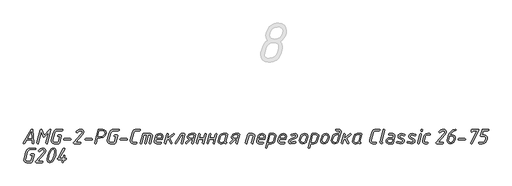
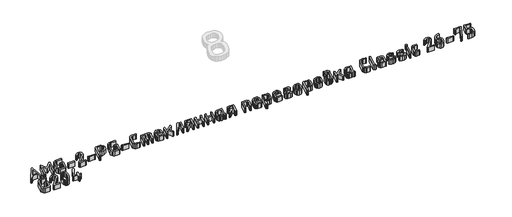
# One storey, part 11 of 22: 1 proxy.
"""IFC4 building model written with IfcOpenShell, lengths in millimetres."""

from ifc_helpers import new_model, si_unit, origin, origin_with_axes, place, context, project, spatial, polyline, outline, extrude, element, save

model = new_model("IFC4")

# Units and contexts
model_context = context("Model", 3, world=origin())
ifc_project = project(units=[si_unit("LENGTHUNIT", "METRE", prefix="MILLI")], contexts=[model_context])

# Site, building, storey
site = spatial("IfcSite", under=ifc_project)
building = spatial("IfcBuilding", under=site)
storey = spatial("IfcBuildingStorey", under=building, Name="Уровень 1", Elevation=0.0)

# Proxy
placement = place(None, origin())
element("IfcBuildingElementProxy", 1, Name="30", ObjectType="30", at=placement, inside=storey, context=model_context, shape_type="SweptSolid", body=[
    extrude(outline(polyline([(-27254.4219264, -35495.2113625), (-27310.5539274, -35495.2113625), (-27331.3287604, -35529.8494015), (-27337.7210168, -35533.5649005), (-27343.0345798, -35531.3276108), (-27345.1919664, -35526.0140477), (-27344.0733215, -35522.0188875), (-27261.4534084, -35386.2633437), (-27254.9812489, -35382.7076511), (-27249.6277342, -35384.4455458), (-27247.4703477, -35389.6592298), (-27237.0429795, -35526.2537573), (-27238.9406806, -35531.7371147), (-27244.6337839, -35533.5649005), (-27249.9573349, -35531.7970421), (-27252.0248303, -35526.493467), (-27254.4219264, -35495.2113625)]), holes=[polyline([(-27255.5405713, -35479.8699473), (-27260.6543764, -35413.3904815), (-27301.3251073, -35479.8699473), (-27255.5405713, -35479.8699473)])]), origin_with_axes(), (0.0, 0.0, 1.0), 50.0),
    extrude(outline(polyline([(-27159.3371135, -35413.3505299), (-27189.9000891, -35527.9716762), (-27192.4370158, -35532.1665945), (-27197.0913775, -35533.5649005), (-27202.3649889, -35531.3276108), (-27204.6821818, -35526.2537573), (-27204.362569, -35523.976516), (-27168.0865143, -35388.3008754), (-27165.5595755, -35384.1059572), (-27160.9351776, -35382.7076511), (-27153.9036956, -35387.2621337), (-27129.8128796, -35444.5527311), (-27073.0816046, -35385.1047472), (-27067.7680415, -35382.7076511), (-27062.1348656, -35384.5654006), (-27060.2571403, -35390.1386491), (-27060.49685, -35392.2960356), (-27096.732953, -35527.9716762), (-27099.3198193, -35532.1665945), (-27103.8842898, -35533.5649005), (-27109.1778771, -35531.3276108), (-27111.5150458, -35526.2537573), (-27111.1554814, -35523.976516), (-27082.5101827, -35416.6665129), (-27127.0961706, -35463.1701777), (-27132.4097337, -35465.4074674), (-27139.2414576, -35460.8929364), (-27159.3371135, -35413.3505299)])), origin_with_axes(), (0.0, 0.0, 1.0), 50.0),
    extrude(outline(polyline([(-26942.6795754, -35398.0490663), (-26991.3406268, -35398.0490663), (-27004.0052846, -35400.8356905), (-27014.512556, -35409.1955633), (-27020.5452479, -35420.5817699), (-27040.7607585, -35495.6907818), (-27041.5597906, -35501.2840061), (-27036.3860581, -35513.5491479), (-27023.5016664, -35518.2234853), (-26984.6287576, -35518.2234853), (-26968.4883104, -35459.4147271), (-26982.2316615, -35459.4147271), (-26987.8648374, -35457.4970502), (-26989.7425627, -35451.7440195), (-26987.8648374, -35445.9909888), (-26982.2316615, -35444.0733119), (-26956.782491, -35444.0733119), (-26952.3478631, -35445.4316663), (-26950.8696539, -35449.5067298), (-26950.9895087, -35451.5442615), (-26971.1251161, -35526.0939509), (-26974.6108934, -35531.6971631), (-26980.9931618, -35533.5649005), (-27027.5767298, -35533.5649005), (-27041.7995002, -35529.4199218), (-27052.8261424, -35516.9849857), (-27057.0210606, -35502.1229897), (-27056.2220285, -35495.8505882), (-27036.1263727, -35420.4219634), (-27026.1784238, -35399.6471304), (-27009.5186057, -35386.9425209), (-26987.2256117, -35382.7076511), (-26942.6795754, -35382.7076511), (-26937.0763632, -35384.625328), (-26935.2086258, -35390.3783587), (-26937.0763632, -35396.1313894), (-26942.6795754, -35398.0490663)])), origin_with_axes(), (0.0, 0.0, 1.0), 50.0),
    extrude(outline(polyline([(-26858.9809691, -35495.2113625), (-26921.0657587, -35495.2113625), (-26926.6689709, -35493.2936856), (-26928.5367083, -35487.5406549), (-26926.6689709, -35481.7876242), (-26921.0657587, -35479.8699473), (-26858.9809691, -35479.8699473), (-26853.3777569, -35481.7876242), (-26851.5100195, -35487.5406549), (-26853.3777569, -35493.2936856), (-26858.9809691, -35495.2113625)])), origin_with_axes(), (0.0, 0.0, 1.0), 50.0),
    extrude(outline(polyline([(-26784.9106988, -35417.8251093), (-26790.4639715, -35420.5418183), (-26795.7575588, -35418.2645769), (-26797.9748727, -35413.0309171), (-26796.137099, -35408.1568216), (-26776.8404752, -35389.5793266), (-26764.8749704, -35384.42557), (-26751.2714499, -35382.7076511), (-26736.3295507, -35386.3532348), (-26725.4627149, -35397.2899858), (-26721.2677967, -35412.4715946), (-26724.6936466, -35427.7430945), (-26734.9711962, -35442.7149574), (-26803.5281454, -35518.2234853), (-26758.5426415, -35518.2234853), (-26752.9094656, -35520.1411622), (-26751.0317403, -35525.8941929), (-26752.9094656, -35531.6472236), (-26758.5426415, -35533.5649005), (-26820.5874795, -35533.5649005), (-26826.1906917, -35531.6871752), (-26828.0584291, -35526.0539993), (-26826.1407522, -35520.9002427), (-26745.7980804, -35432.4873473), (-26738.906429, -35422.5693621), (-26736.6092119, -35413.1108203), (-26741.2935373, -35401.8145048), (-26755.3465133, -35398.0490663), (-26764.8050551, -35400.6359325), (-26775.9215884, -35408.3965312), (-26784.9106988, -35417.8251093)])), origin_with_axes(), (0.0, 0.0, 1.0), 50.0),
    extrude(outline(polyline([(-26639.0873512, -35495.2113625), (-26701.1721409, -35495.2113625), (-26706.7753531, -35493.2936856), (-26708.6430905, -35487.5406549), (-26706.7753531, -35481.7876242), (-26701.1721409, -35479.8699473), (-26639.0873512, -35479.8699473), (-26633.4841391, -35481.7876242), (-26631.6164017, -35487.5406549), (-26633.4841391, -35493.2936856), (-26639.0873512, -35495.2113625)])), origin_with_axes(), (0.0, 0.0, 1.0), 50.0),
    extrude(outline(polyline([(-26548.4771177, -35474.7561423), (-26579.5195126, -35474.7561423), (-26594.1417989, -35528.091531), (-26596.738653, -35532.1965582), (-26601.3330873, -35533.5649005), (-26606.6066988, -35531.3276108), (-26608.9238917, -35526.2537573), (-26608.6042789, -35523.976516), (-26572.9274982, -35390.2585039), (-26569.4716846, -35384.5953643), (-26563.0195009, -35382.7076511), (-26524.1465921, -35382.7076511), (-26507.0173427, -35387.731565), (-26493.8233261, -35402.8033069), (-26488.8293758, -35421.1810439), (-26489.7083111, -35428.7318967), (-26501.7437312, -35453.3620594), (-26522.1090604, -35469.162918), (-26548.4771177, -35474.7561423)]), holes=[polyline([(-26544.4020543, -35459.4147271), (-26527.9519822, -35455.5194459), (-26513.5993691, -35443.8336023), (-26506.6178267, -35432.7769964), (-26504.2906458, -35421.1810439), (-26507.2370765, -35409.3653576), (-26516.0763685, -35401.085388), (-26528.3814619, -35398.0490663), (-26559.3839051, -35398.0490663), (-26575.5243523, -35459.4147271), (-26544.4020543, -35459.4147271)])]), origin_with_axes(), (0.0, 0.0, 1.0), 50.0),
    extrude(outline(polyline([(-26362.2627005, -35398.0490663), (-26410.9237518, -35398.0490663), (-26423.5884096, -35400.8356905), (-26434.095681, -35409.1955633), (-26440.1283729, -35420.5817699), (-26460.3438836, -35495.6907818), (-26461.1429156, -35501.2840061), (-26455.9691831, -35513.5491479), (-26443.0847915, -35518.2234853), (-26404.2118826, -35518.2234853), (-26388.0714354, -35459.4147271), (-26401.8147865, -35459.4147271), (-26407.4479624, -35457.4970502), (-26409.3256877, -35451.7440195), (-26407.4479624, -35445.9909888), (-26401.8147865, -35444.0733119), (-26376.365616, -35444.0733119), (-26371.9309882, -35445.4316663), (-26370.4527789, -35449.5067298), (-26370.5726337, -35451.5442615), (-26390.7082411, -35526.0939509), (-26394.1940184, -35531.6971631), (-26400.5762868, -35533.5649005), (-26447.1598549, -35533.5649005), (-26461.3826252, -35529.4199218), (-26472.4092674, -35516.9849857), (-26476.6041856, -35502.1229897), (-26475.8051536, -35495.8505882), (-26455.7094977, -35420.4219634), (-26445.7615488, -35399.6471304), (-26429.1017307, -35386.9425209), (-26406.8087368, -35382.7076511), (-26362.2627005, -35382.7076511), (-26356.6594883, -35384.625328), (-26354.7917509, -35390.3783587), (-26356.6594883, -35396.1313894), (-26362.2627005, -35398.0490663)])), origin_with_axes(), (0.0, 0.0, 1.0), 50.0),
    extrude(outline(polyline([(-26278.5640941, -35495.2113625), (-26340.6488837, -35495.2113625), (-26346.2520959, -35493.2936856), (-26348.1198333, -35487.5406549), (-26346.2520959, -35481.7876242), (-26340.6488837, -35479.8699473), (-26278.5640941, -35479.8699473), (-26272.9608819, -35481.7876242), (-26271.0931445, -35487.5406549), (-26272.9608819, -35493.2936856), (-26278.5640941, -35495.2113625)])), origin_with_axes(), (0.0, 0.0, 1.0), 50.0),
    extrude(outline(polyline([(-26114.0433968, -35434.4050242), (-26111.4864942, -35430.1501786), (-26106.7722052, -35428.7318967), (-26034.8193698, -35428.7318967), (-26022.5941796, -35431.7382547), (-26014.12444, -35440.7573289), (-26011.0881182, -35452.6629063), (-26011.8871502, -35458.6955982), (-26030.5045968, -35528.0116278), (-26033.091463, -35532.1765824), (-26037.6559336, -35533.5649005), (-26042.9495209, -35531.3675624), (-26045.2866896, -35526.3336606), (-26044.9271252, -35524.0564192), (-26027.4283234, -35458.9752595), (-26026.6292914, -35453.4619384), (-26029.6756011, -35446.4204685), (-26038.81453, -35444.0733119), (-26054.3557032, -35444.0733119), (-26077.0881648, -35528.0116278), (-26079.6750311, -35532.1765824), (-26084.2395016, -35533.5649005), (-26089.5330889, -35531.3675624), (-26091.8702576, -35526.3336606), (-26091.5506448, -35524.0564192), (-26069.8169733, -35444.0733119), (-26100.9792229, -35444.0733119), (-26123.6717329, -35528.0116278), (-26126.268587, -35532.1765824), (-26130.8630212, -35533.5649005), (-26136.1366327, -35531.3475866), (-26138.4538256, -35526.293709), (-26138.1342128, -35524.0164676), (-26114.0433968, -35434.4050242)])), origin_with_axes(), (0.0, 0.0, 1.0), 50.0),
    extrude(outline(polyline([(-26178.7649921, -35518.2234853), (-26173.1318162, -35520.1411622), (-26171.2540909, -35525.8941929), (-26173.1318162, -35531.6472236), (-26178.7649921, -35533.5649005), (-26211.804967, -35533.5649005), (-26226.1575801, -35529.3899581), (-26237.1742344, -35516.8651309), (-26241.2492978, -35501.9232317), (-26240.4502657, -35495.8505882), (-26220.4744647, -35420.4219634), (-26213.6527286, -35403.9219518), (-26203.2153726, -35392.1362292), (-26189.1623966, -35385.0647956), (-26171.4938005, -35382.7076511), (-26142.6087922, -35382.7076511), (-26136.9756163, -35384.625328), (-26135.097891, -35390.3783587), (-26136.9756163, -35396.1313894), (-26142.6087922, -35398.0490663), (-26175.568864, -35398.0490663), (-26188.113667, -35400.8356905), (-26198.7407932, -35409.1955633), (-26204.8933399, -35420.5817699), (-26224.9889957, -35495.6907818), (-26225.7880278, -35501.2840061), (-26220.6142953, -35513.5491479), (-26207.7299036, -35518.2234853), (-26178.7649921, -35518.2234853)])), origin_with_axes(), (0.0, 0.0, 1.0), 50.0),
    extrude(outline(polyline([(-25904.2974858, -35465.4873706), (-25910.3301778, -35487.5406549), (-25972.3750158, -35487.5406549), (-25976.370176, -35502.8820701), (-25977.169208, -35508.4752944), (-25974.1228984, -35515.7864376), (-25964.9839694, -35518.2234853), (-25928.1885439, -35518.2234853), (-25922.555368, -35520.1411622), (-25920.6776427, -35525.8941929), (-25922.555368, -35531.6472236), (-25928.1885439, -35533.5649005), (-25968.9791296, -35533.5649005), (-25978.0381554, -35531.80703), (-25985.7188509, -35526.5334186), (-25990.9624987, -35518.8227594), (-25992.7103812, -35509.7537457), (-25991.9113492, -35503.601199), (-25981.9234487, -35466.1665478), (-25975.066755, -35448.9274315), (-25965.2037032, -35437.4013943), (-25951.4553582, -35430.8992711), (-25932.9427845, -35428.7318967), (-25921.4217413, -35430.804386), (-25911.8683144, -35437.0218541), (-25905.4411005, -35446.2756439), (-25903.2986958, -35457.4570986), (-25904.2974858, -35465.4873706)]), holes=[polyline([(-25919.8786107, -35465.1677578), (-25918.640111, -35457.3771954), (-25923.2345452, -35447.3992827), (-25937.0178479, -35444.0733119), (-25955.9549073, -35449.3469234), (-25962.217321, -35455.9389377), (-25966.3423239, -35465.1677578), (-25968.4198072, -35472.1992397), (-25921.7962876, -35472.1992397), (-25919.8786107, -35465.1677578)])]), origin_with_axes(), (0.0, 0.0, 1.0), 50.0),
    extrude(outline(polyline([(-25845.7284372, -35485.2634136), (-25865.824093, -35500.7246836), (-25873.0952846, -35528.0116278), (-25875.6322114, -35532.1765824), (-25880.286573, -35533.5649005), (-25885.5601845, -35531.3475866), (-25887.8773774, -35526.293709), (-25887.5577646, -35524.0164676), (-25863.4669485, -35434.2851694), (-25860.9400097, -35430.1202149), (-25856.3156118, -35428.7318967), (-25850.6824359, -35430.5796583), (-25848.8047106, -35436.1229431), (-25849.0044686, -35438.2803296), (-25859.3519335, -35476.9534804), (-25798.66545, -35431.2887992), (-25794.1509189, -35428.7318967), (-25788.8972832, -35431.009138), (-25786.5201629, -35436.1229431), (-25789.5964363, -35442.2355382), (-25833.5831502, -35475.9147387), (-25811.410011, -35522.777968), (-25810.610979, -35525.9740961), (-25812.8882203, -35531.2876592), (-25818.241735, -35533.5649005), (-25824.9136525, -35529.2501275), (-25845.7284372, -35485.2634136)])), origin_with_axes(), (0.0, 0.0, 1.0), 50.0),
    extrude(outline(polyline([(-25683.9644004, -35428.7318967), (-25678.3312245, -35430.5796583), (-25676.4534992, -35436.1229431), (-25676.6932088, -35438.2803296), (-25700.9038797, -35528.0116278), (-25703.4907459, -35532.1765824), (-25708.0552164, -35533.5649005), (-25713.3488037, -35531.3675624), (-25715.6859724, -35526.3336606), (-25715.326408, -35524.0564192), (-25693.7525429, -35444.0733119), (-25710.7719254, -35444.0733119), (-25763.8676045, -35530.0491595), (-25769.7404901, -35533.5649005), (-25775.673303, -35531.7770663), (-25777.7308105, -35526.4135638), (-25776.572214, -35522.2186455), (-25721.4789547, -35432.3674925), (-25714.9668436, -35428.7318967), (-25683.9644004, -35428.7318967)])), origin_with_axes(), (0.0, 0.0, 1.0), 50.0),
    extrude(outline(polyline([(-25614.129, -35487.5406549), (-25655.0394405, -35531.2477076), (-25660.3929552, -35533.5649005), (-25665.9861795, -35531.707151), (-25667.9837596, -35526.1339025), (-25665.8263731, -35520.5406783), (-25634.0248978, -35486.5019133), (-25646.2301122, -35478.0321736), (-25650.8445223, -35464.1290161), (-25650.165345, -35458.1362758), (-25644.6220602, -35444.4977976), (-25636.8614615, -35435.4637416), (-25625.97465, -35430.4148579), (-25611.0527266, -35428.7318967), (-25574.2573011, -35428.7318967), (-25568.9637138, -35430.8892832), (-25566.6265451, -35436.0030883), (-25566.9861095, -35438.2803296), (-25591.1568288, -35528.0116278), (-25593.7536829, -35532.1765824), (-25598.3481171, -35533.5649005), (-25603.9513293, -35531.6771873), (-25605.8190667, -35526.0140477), (-25605.6193087, -35523.8167096), (-25596.0708758, -35487.5406549), (-25614.129, -35487.5406549)]), holes=[polyline([(-25623.1181104, -35472.1992397), (-25592.0757156, -35472.1992397), (-25583.8856372, -35444.0733119), (-25615.0478868, -35444.0733119), (-25627.5427504, -35447.5890529), (-25634.8239298, -35458.1362758), (-25635.5031071, -35463.2500809), (-25632.4068579, -35469.96195), (-25623.1181104, -35472.1992397)])]), origin_with_axes(), (0.0, 0.0, 1.0), 50.0),
    extrude(outline(polyline([(-25486.1240669, -35487.5406549), (-25532.7076349, -35487.5406549), (-25543.2548579, -35527.8518214), (-25545.8217483, -35532.1366308), (-25550.5660011, -35533.5649005), (-25555.8196367, -35531.3475866), (-25558.1568055, -35526.293709), (-25557.8371926, -35524.0164676), (-25533.7463766, -35434.2851694), (-25531.2094499, -35430.1202149), (-25526.5550882, -35428.7318967), (-25521.2415251, -35430.80938), (-25518.9642838, -35435.8832335), (-25519.1640418, -35437.9607168), (-25528.7124747, -35472.1992397), (-25482.0090519, -35472.1992397), (-25471.4618289, -35434.125363), (-25468.9348901, -35430.0802632), (-25464.3104922, -35428.7318967), (-25458.6773163, -35430.5796583), (-25456.799591, -35436.1229431), (-25457.0393006, -35438.2803296), (-25481.1301167, -35528.0116278), (-25483.6570555, -35532.1765824), (-25488.2814534, -35533.5649005), (-25493.5550649, -35531.307635), (-25495.8722578, -35526.1339025), (-25495.552645, -35523.8167096), (-25486.1240669, -35487.5406549)])), origin_with_axes(), (0.0, 0.0, 1.0), 50.0),
    extrude(outline(polyline([(-25376.177258, -35487.5406549), (-25422.760826, -35487.5406549), (-25433.308049, -35527.8518214), (-25435.8749394, -35532.1366308), (-25440.6191921, -35533.5649005), (-25445.8728278, -35531.3475866), (-25448.2099965, -35526.293709), (-25447.8903837, -35524.0164676), (-25423.7995677, -35434.2851694), (-25421.2626409, -35430.1202149), (-25416.6082793, -35428.7318967), (-25411.2947162, -35430.80938), (-25409.0174749, -35435.8832335), (-25409.2172329, -35437.9607168), (-25418.7656658, -35472.1992397), (-25372.062243, -35472.1992397), (-25361.51502, -35434.125363), (-25358.9880812, -35430.0802632), (-25354.3636833, -35428.7318967), (-25348.7305074, -35430.5796583), (-25346.8527821, -35436.1229431), (-25347.0924917, -35438.2803296), (-25371.1833077, -35528.0116278), (-25373.7102466, -35532.1765824), (-25378.3346445, -35533.5649005), (-25383.608256, -35531.307635), (-25385.9254489, -35526.1339025), (-25385.6058361, -35523.8167096), (-25376.177258, -35487.5406549)])), origin_with_axes(), (0.0, 0.0, 1.0), 50.0),
    extrude(outline(polyline([(-25309.2982761, -35533.5649005), (-25318.3573019, -35531.8369937), (-25326.0379974, -35526.6532734), (-25331.2816452, -35519.0225174), (-25333.0295278, -35509.9535037), (-25332.2304957, -35503.601199), (-25320.2050635, -35458.6955982), (-25314.6418029, -35444.7924407), (-25306.5815672, -35435.523669), (-25295.7147314, -35430.4298398), (-25281.0924451, -35428.7318967), (-25242.2594878, -35428.7318967), (-25237.3654166, -35430.8693074), (-25236.4265539, -35436.2028463), (-25256.6820162, -35510.7525357), (-25257.001629, -35512.7900674), (-25255.5034439, -35516.8651309), (-25251.0088887, -35518.2234853), (-25245.8051925, -35520.1411622), (-25245.2159064, -35525.8941929), (-25248.5518652, -35531.6472236), (-25254.9640973, -35533.5649005), (-25265.0219131, -35531.3875382), (-25270.4253673, -35524.8554513), (-25279.5742842, -35531.3875382), (-25293.8370061, -35533.5649005), (-25309.2982761, -35533.5649005)]), holes=[polyline([(-25305.3031159, -35518.2234853), (-25289.7619427, -35518.2234853), (-25277.7564863, -35513.6690027), (-25270.0658029, -35503.401441), (-25254.0452104, -35444.0733119), (-25285.0876053, -35444.0733119), (-25297.8321663, -35447.778823), (-25304.7437935, -35458.8953562), (-25316.6893225, -35503.401441), (-25317.4883545, -35508.6750524), (-25314.4420449, -35515.8363771), (-25305.3031159, -35518.2234853)])]), origin_with_axes(), (0.0, 0.0, 1.0), 50.0),
    extrude(outline(polyline([(-25159.0003491, -35487.5406549), (-25199.9107896, -35531.2477076), (-25205.2643043, -35533.5649005), (-25210.8575286, -35531.707151), (-25212.8551087, -35526.1339025), (-25210.6977222, -35520.5406783), (-25178.8962469, -35486.5019133), (-25191.1014614, -35478.0321736), (-25195.7158714, -35464.1290161), (-25195.0366942, -35458.1362758), (-25189.4934094, -35444.4977976), (-25181.7328107, -35435.4637416), (-25170.8459991, -35430.4148579), (-25155.9240757, -35428.7318967), (-25119.1286502, -35428.7318967), (-25113.835063, -35430.8892832), (-25111.4978942, -35436.0030883), (-25111.8574587, -35438.2803296), (-25136.0281779, -35528.0116278), (-25138.625032, -35532.1765824), (-25143.2194663, -35533.5649005), (-25148.8226785, -35531.6771873), (-25150.6904159, -35526.0140477), (-25150.4906579, -35523.8167096), (-25140.942225, -35487.5406549), (-25159.0003491, -35487.5406549)]), holes=[polyline([(-25167.9894596, -35472.1992397), (-25136.9470648, -35472.1992397), (-25128.7569863, -35444.0733119), (-25159.919236, -35444.0733119), (-25172.4140995, -35447.5890529), (-25179.695279, -35458.1362758), (-25180.3744562, -35463.2500809), (-25177.2782071, -35469.96195), (-25167.9894596, -35472.1992397)])]), origin_with_axes(), (0.0, 0.0, 1.0), 50.0),
    extrude(outline(polyline([(-25027.3598203, -35434.4050242), (-25024.8029177, -35430.1501786), (-25020.0886287, -35428.7318967), (-24979.1781882, -35428.7318967), (-24969.8145314, -35430.4198519), (-24962.1787815, -35435.4837174), (-24957.0999341, -35443.1244613), (-24955.4069849, -35452.5430515), (-24956.206017, -35458.6955982), (-24974.8634151, -35528.0116278), (-24977.4303056, -35532.1765824), (-24982.0147519, -35533.5649005), (-24987.2883634, -35531.3675624), (-24989.6055563, -35526.3336606), (-24989.2859435, -35524.0564192), (-24971.7871418, -35458.9752595), (-24970.9881097, -35453.5817932), (-24974.0244315, -35446.4504322), (-24983.1333968, -35444.0733119), (-25014.2956464, -35444.0733119), (-25036.9881564, -35528.0116278), (-25039.5850105, -35532.1765824), (-25044.1794447, -35533.5649005), (-25049.4530562, -35531.3475866), (-25051.7702491, -35526.293709), (-25051.4506363, -35524.0164676), (-25027.3598203, -35434.4050242)])), origin_with_axes(), (0.0, 0.0, 1.0), 50.0),
    extrude(outline(polyline([(-24848.2967398, -35465.4873706), (-24854.3294317, -35487.5406549), (-24916.3742697, -35487.5406549), (-24920.3694299, -35502.8820701), (-24921.1684619, -35508.4752944), (-24918.1221523, -35515.7864376), (-24908.9832233, -35518.2234853), (-24872.1877978, -35518.2234853), (-24866.5546219, -35520.1411622), (-24864.6768966, -35525.8941929), (-24866.5546219, -35531.6472236), (-24872.1877978, -35533.5649005), (-24912.9783835, -35533.5649005), (-24922.0374093, -35531.80703), (-24929.7181048, -35526.5334186), (-24934.9617526, -35518.8227594), (-24936.7096351, -35509.7537457), (-24935.9106031, -35503.601199), (-24925.9227026, -35466.1665478), (-24919.0660089, -35448.9274315), (-24909.2029571, -35437.4013943), (-24895.4546121, -35430.8992711), (-24876.9420384, -35428.7318967), (-24865.4209952, -35430.804386), (-24855.8675683, -35437.0218541), (-24849.4403544, -35446.2756439), (-24847.2979497, -35457.4570986), (-24848.2967398, -35465.4873706)]), holes=[polyline([(-24863.8778646, -35465.1677578), (-24862.6393649, -35457.3771954), (-24867.2337991, -35447.3992827), (-24881.0171019, -35444.0733119), (-24899.9541612, -35449.3469234), (-24906.2165749, -35455.9389377), (-24910.3415778, -35465.1677578), (-24912.4190611, -35472.1992397), (-24865.7955415, -35472.1992397), (-24863.8778646, -35465.1677578)])]), origin_with_axes(), (0.0, 0.0, 1.0), 50.0),
    extrude(outline(polyline([(-24807.4662024, -35434.4449758), (-24804.9092999, -35430.1601665), (-24800.1950109, -35428.7318967), (-24759.2845703, -35428.7318967), (-24750.1206716, -35430.4747853), (-24742.44497, -35435.7034512), (-24737.2462678, -35443.3991286), (-24735.5133671, -35452.5430515), (-24736.3123991, -35458.6955982), (-24748.377783, -35503.601199), (-24753.9260617, -35517.4344412), (-24761.9413519, -35526.6532734), (-24772.972988, -35531.8369937), (-24787.5703046, -35533.5649005), (-24818.5727478, -35533.5649005), (-24829.1599224, -35573.876067), (-24831.6868612, -35578.1608763), (-24836.3112591, -35579.5891461), (-24841.6048464, -35577.3518564), (-24843.9420151, -35572.2780029), (-24843.5824507, -35570.0007616), (-24807.4662024, -35434.4449758)]), holes=[polyline([(-24794.4020286, -35444.0733119), (-24814.6175392, -35518.2234853), (-24783.4952412, -35518.2234853), (-24770.7207164, -35514.5179742), (-24763.7991014, -35503.401441), (-24751.8935239, -35458.8953562), (-24751.0944919, -35453.50189), (-24754.1308137, -35446.4304564), (-24763.2397789, -35444.0733119), (-24794.4020286, -35444.0733119)])]), origin_with_axes(), (0.0, 0.0, 1.0), 50.0),
    extrude(outline(polyline([(-24628.4031219, -35465.4873706), (-24634.4358138, -35487.5406549), (-24696.4806519, -35487.5406549), (-24700.4758121, -35502.8820701), (-24701.2748441, -35508.4752944), (-24698.2285345, -35515.7864376), (-24689.0896055, -35518.2234853), (-24652.29418, -35518.2234853), (-24646.6610041, -35520.1411622), (-24644.7832788, -35525.8941929), (-24646.6610041, -35531.6472236), (-24652.29418, -35533.5649005), (-24693.0847657, -35533.5649005), (-24702.1437915, -35531.80703), (-24709.824487, -35526.5334186), (-24715.0681347, -35518.8227594), (-24716.8160173, -35509.7537457), (-24716.0169853, -35503.601199), (-24706.0290848, -35466.1665478), (-24699.1723911, -35448.9274315), (-24689.3093393, -35437.4013943), (-24675.5609942, -35430.8992711), (-24657.0484206, -35428.7318967), (-24645.5273774, -35430.804386), (-24635.9739505, -35437.0218541), (-24629.5467365, -35446.2756439), (-24627.4043319, -35457.4570986), (-24628.4031219, -35465.4873706)]), holes=[polyline([(-24643.9842467, -35465.1677578), (-24642.7457471, -35457.3771954), (-24647.3401813, -35447.3992827), (-24661.123484, -35444.0733119), (-24680.0605434, -35449.3469234), (-24686.322957, -35455.9389377), (-24690.4479599, -35465.1677578), (-24692.5254433, -35472.1992397), (-24645.9019236, -35472.1992397), (-24643.9842467, -35465.1677578)])]), origin_with_axes(), (0.0, 0.0, 1.0), 50.0),
    extrude(outline(polyline([(-24555.8510125, -35530.6484336), (-24586.9733106, -35533.5649005), (-24594.9037036, -35531.9668364), (-24601.5955969, -35527.1726442), (-24606.1500796, -35520.261017), (-24607.6682404, -35512.3106482), (-24605.9702974, -35503.1517434), (-24600.8764681, -35494.3723789), (-24585.2953433, -35482.7065111), (-24539.9502749, -35464.9679998), (-24532.6990591, -35459.7742915), (-24530.2819872, -35451.6241647), (-24532.5891922, -35445.9610251), (-24539.5108073, -35444.0733119), (-24557.4191129, -35445.6913518), (-24570.9527181, -35450.5454714), (-24574.5883139, -35451.5842131), (-24579.8819012, -35449.3069717), (-24582.0992151, -35444.0733119), (-24578.3437645, -35437.4413459), (-24560.3056162, -35430.909259), (-24535.5156471, -35428.7318967), (-24525.4078918, -35431.4985451), (-24517.7771358, -35439.7984905), (-24514.8207172, -35450.3057618), (-24517.2677528, -35460.823021), (-24524.6088597, -35471.1205465), (-24536.9938564, -35479.3505765), (-24582.3389247, -35496.969233), (-24589.6500679, -35502.2528324), (-24592.0871156, -35510.4329229), (-24589.8198622, -35516.2758447), (-24583.018102, -35518.2234853), (-24561.424261, -35516.4855906), (-24541.8679518, -35511.2719066), (-24539.1512429, -35510.7125841), (-24533.518067, -35512.5903094), (-24531.6403417, -35518.2234853), (-24534.0873773, -35523.477121), (-24541.4284842, -35527.4123538), (-24555.8510125, -35530.6484336)])), origin_with_axes(), (0.0, 0.0, 1.0), 50.0),
    extrude(outline(polyline([(-24494.0858357, -35496.1302494), (-24486.1354669, -35466.1665478), (-24479.2787732, -35448.9274315), (-24469.4157215, -35437.4013943), (-24455.6673764, -35430.8992711), (-24437.1548028, -35428.7318967), (-24425.6337595, -35430.8443376), (-24416.0803327, -35437.1816605), (-24409.6531187, -35446.6152326), (-24407.510714, -35458.016421), (-24408.5095041, -35466.1665478), (-24416.4598729, -35496.1302494), (-24426.3678702, -35517.6641629), (-24441.9889466, -35529.5897161), (-24465.440537, -35533.5649005), (-24476.9665742, -35531.4524596), (-24486.5349829, -35525.1151367), (-24492.9771788, -35515.6815646), (-24495.1245774, -35504.2803762), (-24494.0858357, -35496.1302494)]), holes=[polyline([(-24432.0409977, -35495.970443), (-24424.0906289, -35466.3263542), (-24422.8521292, -35458.016421), (-24427.4465635, -35447.5590892), (-24441.2298662, -35444.0733119), (-24451.8120468, -35445.464127), (-24460.226853, -35449.6365725), (-24466.4742848, -35456.5906482), (-24470.5543421, -35466.3263542), (-24478.6245657, -35495.970443), (-24479.903017, -35504.2803762), (-24475.2985949, -35514.737708), (-24461.4853284, -35518.2234853), (-24450.8656932, -35516.8326702), (-24442.4184264, -35512.6602247), (-24436.1435279, -35505.706149), (-24432.0409977, -35495.970443)])]), origin_with_axes(), (0.0, 0.0, 1.0), 50.0),
    extrude(outline(polyline([(-24367.6789668, -35434.4449758), (-24365.1220642, -35430.1601665), (-24360.4077752, -35428.7318967), (-24319.4973347, -35428.7318967), (-24310.3334359, -35430.4747853), (-24302.6577344, -35435.7034512), (-24297.4590322, -35443.3991286), (-24295.7261314, -35452.5430515), (-24296.5251635, -35458.6955982), (-24308.5905473, -35503.601199), (-24314.138826, -35517.4344412), (-24322.1541162, -35526.6532734), (-24333.1857523, -35531.8369937), (-24347.7830689, -35533.5649005), (-24378.7855121, -35533.5649005), (-24389.3726867, -35573.876067), (-24391.8996255, -35578.1608763), (-24396.5240235, -35579.5891461), (-24401.8176107, -35577.3518564), (-24404.1547795, -35572.2780029), (-24403.795215, -35570.0007616), (-24367.6789668, -35434.4449758)]), holes=[polyline([(-24354.6147929, -35444.0733119), (-24374.8303035, -35518.2234853), (-24343.7080055, -35518.2234853), (-24330.9334808, -35514.5179742), (-24324.0118657, -35503.401441), (-24312.1062883, -35458.8953562), (-24311.3072562, -35453.50189), (-24314.343578, -35446.4304564), (-24323.4525433, -35444.0733119), (-24354.6147929, -35444.0733119)])]), origin_with_axes(), (0.0, 0.0, 1.0), 50.0),
    extrude(outline(polyline([(-24274.1922179, -35496.1302494), (-24266.2418491, -35466.1665478), (-24259.3851554, -35448.9274315), (-24249.5221036, -35437.4013943), (-24235.7737586, -35430.8992711), (-24217.2611849, -35428.7318967), (-24205.7401417, -35430.8443376), (-24196.1867149, -35437.1816605), (-24189.7595009, -35446.6152326), (-24187.6170962, -35458.016421), (-24188.6158863, -35466.1665478), (-24196.5662551, -35496.1302494), (-24206.4742524, -35517.6641629), (-24222.0953288, -35529.5897161), (-24245.5469192, -35533.5649005), (-24257.0729564, -35531.4524596), (-24266.6413651, -35525.1151367), (-24273.0835609, -35515.6815646), (-24275.2309596, -35504.2803762), (-24274.1922179, -35496.1302494)]), holes=[polyline([(-24212.1473799, -35495.970443), (-24204.1970111, -35466.3263542), (-24202.9585114, -35458.016421), (-24207.5529456, -35447.5590892), (-24221.3362484, -35444.0733119), (-24231.918429, -35445.464127), (-24240.3332351, -35449.6365725), (-24246.5806669, -35456.5906482), (-24250.6607243, -35466.3263542), (-24258.7309479, -35495.970443), (-24260.0093992, -35504.2803762), (-24255.404977, -35514.737708), (-24241.5917106, -35518.2234853), (-24230.9720754, -35516.8326702), (-24222.5248085, -35512.6602247), (-24216.24991, -35505.706149), (-24212.1473799, -35495.970443)])]), origin_with_axes(), (0.0, 0.0, 1.0), 50.0),
    extrude(outline(polyline([(-24064.6061134, -35412.8711107), (-24086.6194462, -35495.8505882), (-24093.6059826, -35513.2744806), (-24103.6188528, -35524.8754271), (-24117.3771858, -35531.3925322), (-24135.6001103, -35533.5649005), (-24147.1261475, -35531.4524596), (-24156.6945562, -35525.1151367), (-24163.136752, -35515.6815646), (-24165.2841506, -35504.2803762), (-24164.245409, -35496.1302494), (-24156.2950402, -35466.1665478), (-24149.4383465, -35448.9274315), (-24139.5752947, -35437.4013943), (-24125.8269496, -35430.8992711), (-24107.314376, -35428.7318967), (-24084.022592, -35428.7318967), (-24080.0274318, -35413.3904815), (-24079.2683514, -35407.7972572), (-24082.3346368, -35400.486114), (-24091.5334932, -35398.0490663), (-24112.7877455, -35398.0490663), (-24118.3909577, -35396.1313894), (-24120.2586951, -35390.3783587), (-24118.3909577, -35384.625328), (-24112.7877455, -35382.7076511), (-24087.538333, -35382.7076511), (-24078.404398, -35384.4655216), (-24070.7386843, -35389.7391331), (-24065.5399821, -35397.4997318), (-24063.8070814, -35406.7185639), (-24064.6061134, -35412.8711107)]), holes=[polyline([(-24102.200571, -35495.970443), (-24088.0976554, -35444.0733119), (-24111.3894394, -35444.0733119), (-24121.97162, -35445.464127), (-24130.3864262, -35449.6365725), (-24136.633858, -35456.5906482), (-24140.7139154, -35466.3263542), (-24148.784139, -35495.970443), (-24150.0625903, -35504.2803762), (-24145.4581681, -35514.737708), (-24131.6449017, -35518.2234853), (-24121.0252665, -35516.8326702), (-24112.5779996, -35512.6602247), (-24106.3031011, -35505.706149), (-24102.200571, -35495.970443)])]), origin_with_axes(), (0.0, 0.0, 1.0), 50.0),
    extrude(outline(polyline([(-24020.1000287, -35485.2634136), (-24040.1956845, -35500.7246836), (-24047.4668761, -35528.0116278), (-24050.0038029, -35532.1765824), (-24054.6581645, -35533.5649005), (-24059.931776, -35531.3475866), (-24062.2489689, -35526.293709), (-24061.9293561, -35524.0164676), (-24037.83854, -35434.2851694), (-24035.3116012, -35430.1202149), (-24030.6872032, -35428.7318967), (-24025.0540274, -35430.5796583), (-24023.1763021, -35436.1229431), (-24023.3760601, -35438.2803296), (-24033.723525, -35476.9534804), (-23973.0370415, -35431.2887992), (-23968.5225104, -35428.7318967), (-23963.2688747, -35431.009138), (-23960.8917544, -35436.1229431), (-23963.9680278, -35442.2355382), (-24007.9547417, -35475.9147387), (-23985.7816025, -35522.777968), (-23984.9825705, -35525.9740961), (-23987.2598118, -35531.2876592), (-23992.6133265, -35533.5649005), (-23999.285244, -35529.2501275), (-24020.1000287, -35485.2634136)])), origin_with_axes(), (0.0, 0.0, 1.0), 50.0),
    extrude(outline(polyline([(-23923.4571033, -35533.5649005), (-23932.516129, -35531.8369937), (-23940.1968245, -35526.6532734), (-23945.4404723, -35519.0225174), (-23947.1883549, -35509.9535037), (-23946.3893229, -35503.601199), (-23934.3638906, -35458.6955982), (-23928.8006301, -35444.7924407), (-23920.7403943, -35435.523669), (-23909.8735586, -35430.4298398), (-23895.2512722, -35428.7318967), (-23856.418315, -35428.7318967), (-23851.5242437, -35430.8693074), (-23850.5853811, -35436.2028463), (-23870.8408433, -35510.7525357), (-23871.1604562, -35512.7900674), (-23869.6622711, -35516.8651309), (-23865.1677158, -35518.2234853), (-23859.9640197, -35520.1411622), (-23859.3747335, -35525.8941929), (-23862.7106923, -35531.6472236), (-23869.1229244, -35533.5649005), (-23879.1807403, -35531.3875382), (-23884.5841945, -35524.8554513), (-23893.7331113, -35531.3875382), (-23907.9958333, -35533.5649005), (-23923.4571033, -35533.5649005)]), holes=[polyline([(-23919.4619431, -35518.2234853), (-23903.9207699, -35518.2234853), (-23891.9153134, -35513.6690027), (-23884.22463, -35503.401441), (-23868.2040376, -35444.0733119), (-23899.2464324, -35444.0733119), (-23911.9909935, -35447.778823), (-23918.9026206, -35458.8953562), (-23930.8481497, -35503.401441), (-23931.6471817, -35508.6750524), (-23928.600872, -35515.8363771), (-23919.4619431, -35518.2234853)])]), origin_with_axes(), (0.0, 0.0, 1.0), 50.0),
    extrude(outline(polyline([(-23706.2402428, -35518.2234853), (-23700.6070669, -35520.1411622), (-23698.7293416, -35525.8941929), (-23700.6070669, -35531.6472236), (-23706.2402428, -35533.5649005), (-23739.2802177, -35533.5649005), (-23750.1520474, -35531.0629314), (-23759.7554138, -35523.5570242), (-23766.4822648, -35513.1446379), (-23768.7245484, -35501.9232317), (-23767.9255164, -35495.8505882), (-23747.9497154, -35420.4219634), (-23741.1279793, -35403.9219518), (-23730.6906233, -35392.1362292), (-23716.6376472, -35385.0647956), (-23698.9690512, -35382.7076511), (-23670.0840429, -35382.7076511), (-23664.450867, -35384.625328), (-23662.5731417, -35390.3783587), (-23664.450867, -35396.1313894), (-23670.0840429, -35398.0490663), (-23703.0441146, -35398.0490663), (-23712.5126443, -35399.687082), (-23721.3419484, -35404.601129), (-23728.3534545, -35411.8723206), (-23732.3685905, -35420.5817699), (-23752.4642464, -35495.6907818), (-23753.2632784, -35501.2840061), (-23748.089546, -35513.5491479), (-23735.2051543, -35518.2234853), (-23706.2402428, -35518.2234853)])), origin_with_axes(), (0.0, 0.0, 1.0), 50.0),
    extrude(outline(polyline([(-23642.8770019, -35518.4631949), (-23637.243826, -35520.3509081), (-23635.3661007, -35526.0140477), (-23637.243826, -35531.6771873), (-23642.8770019, -35533.5649005), (-23656.9000142, -35528.3711923), (-23661.3646057, -35522.5582342), (-23662.8528029, -35515.5067764), (-23662.1736257, -35510.9522938), (-23629.4532636, -35388.3008754), (-23626.8963611, -35384.1059572), (-23622.182072, -35382.7076511), (-23616.5488961, -35384.5654006), (-23614.6711708, -35390.1386491), (-23614.9108804, -35392.2960356), (-23646.6324525, -35510.9522938), (-23647.1917749, -35514.3481799), (-23642.8770019, -35518.4631949)])), origin_with_axes(), (0.0, 0.0, 1.0), 50.0),
    extrude(outline(polyline([(-23534.9277731, -35533.5649005), (-23575.7183588, -35533.5649005), (-23584.7624027, -35531.7620845), (-23592.3981527, -35526.3536364), (-23597.5968549, -35518.4482131), (-23599.3297556, -35509.1544717), (-23596.4931919, -35493.353613), (-23587.9835006, -35481.507963), (-23575.5485645, -35474.5264206), (-23559.5779116, -35472.1992397), (-23528.4156619, -35472.1992397), (-23524.4604533, -35458.1362758), (-23523.6614213, -35453.0224707), (-23526.7277068, -35446.3106016), (-23535.9265631, -35444.0733119), (-23565.1311842, -35444.0733119), (-23570.7643601, -35442.155635), (-23572.6420854, -35436.4026043), (-23570.7643601, -35430.6495736), (-23565.1311842, -35428.7318967), (-23531.8514997, -35428.7318967), (-23522.6526433, -35430.4598035), (-23515.0318752, -35435.6435238), (-23509.9080823, -35443.3242193), (-23508.2001513, -35452.5430515), (-23508.9991833, -35458.6955982), (-23527.6565815, -35527.891773), (-23530.2534356, -35532.1466187), (-23534.9277731, -35533.5649005)]), holes=[polyline([(-23532.530677, -35487.5406549), (-23563.5331202, -35487.5406549), (-23571.7731381, -35488.9938945), (-23578.2752613, -35493.353613), (-23582.5001432, -35500.0405124), (-23583.9084372, -35508.4752944), (-23580.8321639, -35515.7864376), (-23571.6033438, -35518.2234853), (-23540.6009006, -35518.2234853), (-23532.530677, -35487.5406549)])]), origin_with_axes(), (0.0, 0.0, 1.0), 50.0),
    extrude(outline(polyline([(-23415.1928217, -35449.986149), (-23428.207056, -35445.5515212), (-23445.4361844, -35444.0733119), (-23456.1032622, -35448.3081817), (-23460.53789, -35458.6556466), (-23456.4628266, -35466.446209), (-23424.5015449, -35483.3856883), (-23414.6135234, -35491.5058514), (-23411.3175163, -35501.8033769), (-23415.4724829, -35517.2946106), (-23427.9373827, -35528.9305147), (-23446.3151197, -35533.5649005), (-23466.860231, -35531.3875382), (-23488.9434791, -35524.8554513), (-23492.5790749, -35518.2234853), (-23490.4216884, -35512.9298981), (-23485.0681737, -35510.7125841), (-23481.6722875, -35511.5116162), (-23464.3932196, -35516.545518), (-23442.3599111, -35518.2234853), (-23431.8526397, -35513.7089543), (-23427.1383507, -35503.401441), (-23428.8662575, -35498.577285), (-23434.0499778, -35494.4922337), (-23463.0548409, -35479.1108669), (-23472.9128988, -35470.5911878), (-23476.198918, -35459.0152111), (-23472.0539393, -35444.1032756), (-23459.6190032, -35433.0067181), (-23441.4410242, -35428.7318967), (-23422.7536623, -35431.0890412), (-23405.7642436, -35438.1604748), (-23403.0475346, -35444.0733119), (-23405.2648485, -35449.3668992), (-23410.5184842, -35451.5842131), (-23415.1928217, -35449.986149)])), origin_with_axes(), (0.0, 0.0, 1.0), 50.0),
    extrude(outline(polyline([(-23305.2460127, -35449.986149), (-23318.2602471, -35445.5515212), (-23335.4893755, -35444.0733119), (-23346.1564533, -35448.3081817), (-23350.5910811, -35458.6556466), (-23346.5160177, -35466.446209), (-23314.554736, -35483.3856883), (-23304.6667145, -35491.5058514), (-23301.3707073, -35501.8033769), (-23305.525674, -35517.2946106), (-23317.9905738, -35528.9305147), (-23336.3683108, -35533.5649005), (-23356.9134221, -35531.3875382), (-23378.9966702, -35524.8554513), (-23382.632266, -35518.2234853), (-23380.4748794, -35512.9298981), (-23375.1213648, -35510.7125841), (-23371.7254786, -35511.5116162), (-23354.4464107, -35516.545518), (-23332.4131021, -35518.2234853), (-23321.9058308, -35513.7089543), (-23317.1915418, -35503.401441), (-23318.9194485, -35498.577285), (-23324.1031689, -35494.4922337), (-23353.108032, -35479.1108669), (-23362.9660898, -35470.5911878), (-23366.2521091, -35459.0152111), (-23362.1071304, -35444.1032756), (-23349.6721942, -35433.0067181), (-23331.4942153, -35428.7318967), (-23312.8068534, -35431.0890412), (-23295.8174346, -35438.1604748), (-23293.1007257, -35444.0733119), (-23295.3180396, -35449.3668992), (-23300.5716753, -35451.5842131), (-23305.2460127, -35449.986149)])), origin_with_axes(), (0.0, 0.0, 1.0), 50.0),
    extrude(outline(polyline([(-23174.4844191, -35533.5649005), (-23199.8536865, -35533.5649005), (-23208.9127122, -35531.80703), (-23216.5934077, -35526.5334186), (-23221.8370555, -35518.8227594), (-23223.5849381, -35509.7537457), (-23222.7859061, -35503.601199), (-23210.7604738, -35458.6955982), (-23202.909984, -35441.4664698), (-23190.5449632, -35431.80817), (-23171.6478554, -35428.7318967), (-23150.3136999, -35428.7318967), (-23144.680524, -35430.6495736), (-23142.8027987, -35436.4026043), (-23144.680524, -35442.155635), (-23150.3136999, -35444.0733119), (-23175.6430156, -35444.0733119), (-23188.3875767, -35447.778823), (-23195.2992038, -35458.8953562), (-23207.2447328, -35503.401441), (-23208.1236681, -35508.11573), (-23205.0573826, -35515.6965465), (-23195.8585263, -35518.2234853), (-23174.4844191, -35518.2234853), (-23168.8812069, -35520.1411622), (-23167.0134696, -35525.8941929), (-23168.8812069, -35531.6472236), (-23174.4844191, -35533.5649005)])), origin_with_axes(), (0.0, 0.0, 1.0), 50.0),
    extrude(outline(polyline([(-23250.4324147, -35434.125363), (-23247.895488, -35429.9604084), (-23243.2411263, -35428.5720903), (-23237.9275632, -35430.7294768), (-23235.6503219, -35435.9631367), (-23235.8500799, -35438.1205232), (-23259.940896, -35528.0116278), (-23262.5077864, -35532.1765824), (-23267.2520392, -35533.5649005), (-23272.5056748, -35531.3475866), (-23274.8428436, -35526.293709), (-23274.5232307, -35524.0164676), (-23250.4324147, -35434.125363)])), origin_with_axes(), (0.0, 0.0, 1.0), 50.0),
    extrude(outline(polyline([(-23240.2847078, -35395.6919218), (-23238.2471761, -35388.3008754), (-23235.7202372, -35384.1059572), (-23231.0958393, -35382.7076511), (-23225.4626634, -35384.5554127), (-23223.5849381, -35390.0986975), (-23223.8246477, -35392.256084), (-23225.8621794, -35399.6471304), (-23228.4490456, -35403.8420486), (-23233.0135162, -35405.2403547), (-23238.6466921, -35403.3925931), (-23240.5244174, -35397.8493083), (-23240.2847078, -35395.6919218)])), origin_with_axes(), (0.0, 0.0, 1.0), 50.0),
    extrude(outline(polyline([(-23041.6053906, -35417.8251093), (-23047.1586633, -35420.5418183), (-23052.4522506, -35418.2645769), (-23054.6695645, -35413.0309171), (-23052.8317908, -35408.1568216), (-23033.535167, -35389.5793266), (-23021.5696622, -35384.42557), (-23007.9661417, -35382.7076511), (-22993.0242425, -35386.3532348), (-22982.1574067, -35397.2899858), (-22977.9624885, -35412.4715946), (-22981.3883384, -35427.7430945), (-22991.665888, -35442.7149574), (-23060.2228372, -35518.2234853), (-23015.2373333, -35518.2234853), (-23009.6041574, -35520.1411622), (-23007.7264321, -35525.8941929), (-23009.6041574, -35531.6472236), (-23015.2373333, -35533.5649005), (-23077.2821713, -35533.5649005), (-23082.8853835, -35531.6871752), (-23084.7531209, -35526.0539993), (-23082.835444, -35520.9002427), (-23002.4927722, -35432.4873473), (-22995.6011208, -35422.5693621), (-22993.3039037, -35413.1108203), (-22997.9882291, -35401.8145048), (-23012.0412051, -35398.0490663), (-23021.4997469, -35400.6359325), (-23032.6162802, -35408.3965312), (-23041.6053906, -35417.8251093)])), origin_with_axes(), (0.0, 0.0, 1.0), 50.0),
    extrude(outline(polyline([(-22939.0895797, -35533.5649005), (-22953.3822653, -35529.4199218), (-22964.458847, -35516.9849857), (-22968.5339104, -35502.0830381), (-22967.7348784, -35496.0103946), (-22955.6694946, -35450.4655682), (-22946.7403115, -35427.293639), (-22933.2965974, -35408.3565796), (-22912.9212803, -35392.4358662), (-22887.2723518, -35382.7076511), (-22885.3546749, -35382.7076511), (-22879.721499, -35384.625328), (-22877.8437737, -35390.3783587), (-22879.0922613, -35395.4322363), (-22882.837724, -35397.5696471), (-22908.0871365, -35407.2379348), (-22926.7545226, -35423.5381884), (-22937.2917576, -35444.0733119), (-22914.8789088, -35444.0733119), (-22903.0532346, -35446.1058496), (-22893.4648501, -35452.2034629), (-22887.1125454, -35461.527168), (-22884.9951105, -35473.2379814), (-22886.0338521, -35481.3481566), (-22890.1089156, -35496.2900558), (-22900.0468766, -35517.6941266), (-22915.5580861, -35529.7295467), (-22939.0895797, -35533.5649005)]), holes=[polyline([(-22935.1343711, -35518.2234853), (-22924.5596814, -35516.8451551), (-22916.1273964, -35512.7101642), (-22909.8375161, -35505.8185129), (-22905.6900404, -35496.170201), (-22901.614977, -35481.4680114), (-22900.3365257, -35473.2379814), (-22905.0008752, -35462.8705407), (-22918.9939239, -35459.4147271), (-22942.2857079, -35459.4147271), (-22952.2736084, -35496.170201), (-22953.1924952, -35501.6435705), (-22948.0187628, -35513.6490269), (-22935.1343711, -35518.2234853)])]), origin_with_axes(), (0.0, 0.0, 1.0), 50.0),
    extrude(outline(polyline([(-22785.8352341, -35495.2113625), (-22847.9200238, -35495.2113625), (-22853.523236, -35493.2936856), (-22855.3909734, -35487.5406549), (-22853.523236, -35481.7876242), (-22847.9200238, -35479.8699473), (-22785.8352341, -35479.8699473), (-22780.2320219, -35481.7876242), (-22778.3642845, -35487.5406549), (-22780.2320219, -35493.2936856), (-22785.8352341, -35495.2113625)])), origin_with_axes(), (0.0, 0.0, 1.0), 50.0),
    extrude(outline(polyline([(-22609.1292981, -35533.5649005), (-22638.1341613, -35533.5649005), (-22643.7373734, -35531.6472236), (-22645.6051108, -35525.8941929), (-22643.7373734, -35520.1411622), (-22638.1341613, -35518.2234853), (-22605.1740895, -35518.2234853), (-22594.5993999, -35516.8451551), (-22586.1671149, -35512.7101642), (-22579.8772345, -35505.8185129), (-22575.7297588, -35496.170201), (-22571.6546954, -35481.4680114), (-22570.3762441, -35473.2379814), (-22575.0405937, -35462.8705407), (-22589.0336423, -35459.4147271), (-22617.9985538, -35459.4147271), (-22623.2921411, -35457.0975342), (-22625.509455, -35451.7440195), (-22625.2697454, -35449.786391), (-22609.249153, -35388.5006334), (-22606.6922504, -35384.1558967), (-22601.9779614, -35382.7076511), (-22547.6837342, -35382.7076511), (-22542.0505583, -35384.625328), (-22540.172833, -35390.3783587), (-22542.0505583, -35396.1313894), (-22547.6837342, -35398.0490663), (-22596.1849791, -35398.0490663), (-22608.2503629, -35444.0733119), (-22584.9186273, -35444.0733119), (-22573.0330257, -35446.0908678), (-22563.5045686, -35452.1435355), (-22557.242155, -35461.4522588), (-22555.1546837, -35473.2379814), (-22556.1934254, -35481.3481566), (-22560.2684888, -35496.2900558), (-22570.2464014, -35517.754054), (-22585.6377561, -35529.7295467), (-22609.1292981, -35533.5649005)])), origin_with_axes(), (0.0, 0.0, 1.0), 50.0),
    extrude(outline(polyline([(-22661.8254613, -35398.5684371), (-22705.6923204, -35398.5684371), (-22707.6099973, -35406.9582735), (-22710.8161133, -35412.4516188), (-22716.5991077, -35413.4304331), (-22721.6230217, -35409.6949583), (-22722.1523804, -35403.202823), (-22719.4356715, -35391.0575359), (-22716.8188415, -35385.42436), (-22711.9247703, -35383.5466347), (-22649.8799323, -35383.5466347), (-22644.2467564, -35385.42436), (-22642.3690311, -35391.0575359), (-22643.0482083, -35394.4534221), (-22710.3267062, -35529.4898371), (-22714.761334, -35533.2053361), (-22720.7540744, -35533.1254329), (-22724.1899121, -35528.3312407), (-22723.7504445, -35522.777968), (-22661.8254613, -35398.5684371)])), origin_with_axes(), (0.0, 0.0, 1.0), 50.0),
    extrude(outline(polyline([(-27176.1167864, -35613.8493549), (-27181.6700591, -35616.5660638), (-27186.9636463, -35614.2888225), (-27189.1809602, -35609.0551627), (-27187.3431865, -35604.1810672), (-27168.0465627, -35585.6035722), (-27156.0810579, -35580.4498156), (-27142.4775374, -35578.7318967), (-27127.5356382, -35582.3774804), (-27116.6688025, -35593.3142314), (-27112.4738843, -35608.4958402), (-27115.8997341, -35623.7673401), (-27126.1772838, -35638.739203), (-27194.7342329, -35714.2477309), (-27149.748729, -35714.2477309), (-27144.1155531, -35716.1654078), (-27142.2378278, -35721.9184385), (-27144.1155531, -35727.6714692), (-27149.748729, -35729.5891461), (-27211.793567, -35729.5891461), (-27217.3967792, -35727.7114208), (-27219.2645166, -35722.0782449), (-27217.3468397, -35716.9244883), (-27137.0041679, -35628.5115929), (-27130.1125166, -35618.5936077), (-27127.8152995, -35609.1350659), (-27132.4996248, -35597.8387504), (-27146.5526008, -35594.0733119), (-27156.0111426, -35596.6601781), (-27167.1276759, -35604.4207768), (-27176.1167864, -35613.8493549)])), origin_with_axes(), (0.0, 0.0, 1.0), 50.0),
    extrude(outline(polyline([(-27223.9388541, -35594.0733119), (-27272.5999054, -35594.0733119), (-27285.2645632, -35596.8599361), (-27295.7718346, -35605.2198089), (-27301.8045265, -35616.6060154), (-27322.0200371, -35691.7150274), (-27322.8190692, -35697.3082516), (-27317.6453367, -35709.5733935), (-27304.7609451, -35714.2477309), (-27265.8880362, -35714.2477309), (-27249.747589, -35655.4389727), (-27263.4909401, -35655.4389727), (-27269.124116, -35653.5212958), (-27271.0018413, -35647.7682651), (-27269.124116, -35642.0152344), (-27263.4909401, -35640.0975575), (-27238.0417696, -35640.0975575), (-27233.6071418, -35641.4559119), (-27232.1289325, -35645.5309754), (-27232.2487873, -35647.5685071), (-27252.3843947, -35722.1181965), (-27255.870172, -35727.7214087), (-27262.2524404, -35729.5891461), (-27308.8360085, -35729.5891461), (-27323.0587788, -35725.4441674), (-27334.085421, -35713.0092313), (-27338.2803392, -35698.1472353), (-27337.4813072, -35691.8748338), (-27317.3856513, -35616.446209), (-27307.4377024, -35595.671376), (-27290.7778843, -35582.9667665), (-27268.4848904, -35578.7318967), (-27223.9388541, -35578.7318967), (-27218.3356419, -35580.6495736), (-27216.4679045, -35586.4026043), (-27218.3356419, -35592.155635), (-27223.9388541, -35594.0733119)])), origin_with_axes(), (0.0, 0.0, 1.0), 50.0),
    extrude(outline(polyline([(-27026.6977946, -35691.1956565), (-27036.29367, -35707.9928082), (-27047.143027, -35719.9907737), (-27059.2458654, -35727.189553), (-27072.6021854, -35729.5891461), (-27083.3341845, -35727.3044139), (-27090.9998981, -35720.4502171), (-27095.5993263, -35709.0265559), (-27097.1324691, -35693.0334302), (-27092.3682405, -35656.6475086), (-27078.0755549, -35617.2452411), (-27068.4796794, -35600.3956529), (-27057.6303225, -35588.3602328), (-27045.5274841, -35581.1389807), (-27032.1711641, -35578.7318967), (-27021.439165, -35581.0241198), (-27013.7734513, -35587.9007894), (-27009.1740231, -35599.3619052), (-27007.6408804, -35615.4074674), (-27012.405109, -35651.8533164), (-27026.6977946, -35691.1956565)]), holes=[polyline([(-27029.2147455, -35654.1605214), (-27022.9822956, -35615.6871286), (-27026.3182544, -35599.4767661), (-27036.3261307, -35594.0733119), (-27043.6672376, -35596.2282014), (-27051.1082235, -35602.69287), (-27066.2898323, -35628.5515445), (-27075.5586039, -35654.1605214), (-27081.7910539, -35692.6339142), (-27078.4550951, -35708.8442767), (-27068.4472188, -35714.2477309), (-27061.1136028, -35712.0928414), (-27053.6950897, -35705.6281728), (-27038.603372, -35679.7694983), (-27029.2147455, -35654.1605214)])]), origin_with_axes(), (0.0, 0.0, 1.0), 50.0),
    extrude(outline(polyline([(-26920.2667267, -35683.5649005), (-26906.8429884, -35683.5649005), (-26901.2098125, -35685.4825774), (-26899.3320872, -35691.2356081), (-26901.2098125, -35696.9886388), (-26906.8429884, -35698.9063157), (-26924.2219353, -35698.9063157), (-26930.6940948, -35723.876067), (-26933.2310215, -35728.1608763), (-26937.8853832, -35729.5891461), (-26943.6683776, -35727.6415055), (-26945.5960424, -35721.7985837), (-26945.3563328, -35719.96081), (-26939.8030601, -35698.9063157), (-26984.4689512, -35698.9063157), (-26989.7825143, -35696.6890018), (-26991.9399008, -35691.3954145), (-26990.9411107, -35687.6399639), (-26931.7328365, -35582.4873473), (-26925.2606769, -35578.7318967), (-26919.5376099, -35580.5796583), (-26917.6299209, -35586.1229431), (-26918.6686626, -35589.8384421), (-26971.6045353, -35683.5649005), (-26935.8078999, -35683.5649005), (-26929.2158855, -35658.9946653), (-26926.6889467, -35654.9196018), (-26922.0645488, -35653.5612474), (-26916.3714455, -35655.3790453), (-26914.4737444, -35660.8324389), (-26914.6735024, -35662.8699707), (-26920.2667267, -35683.5649005)])), origin_with_axes(), (0.0, 0.0, 1.0), 50.0),
])

save(model, "model.ifc")
